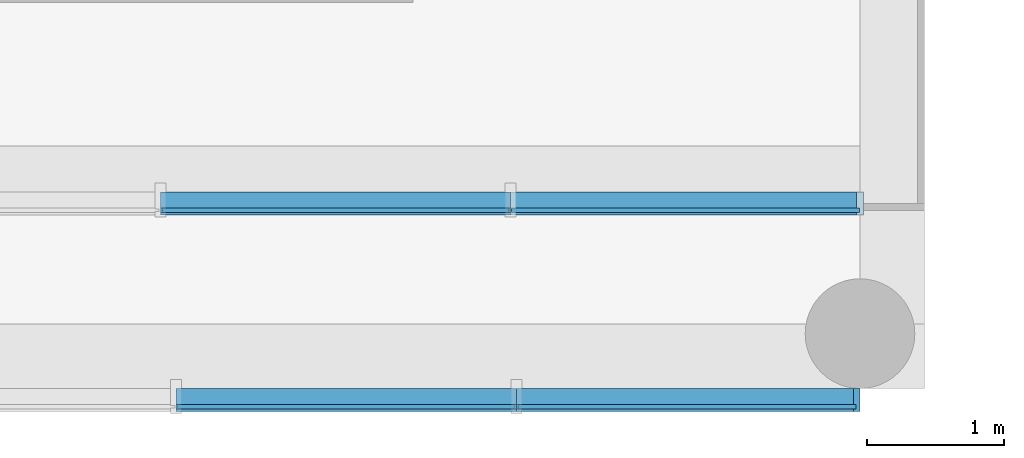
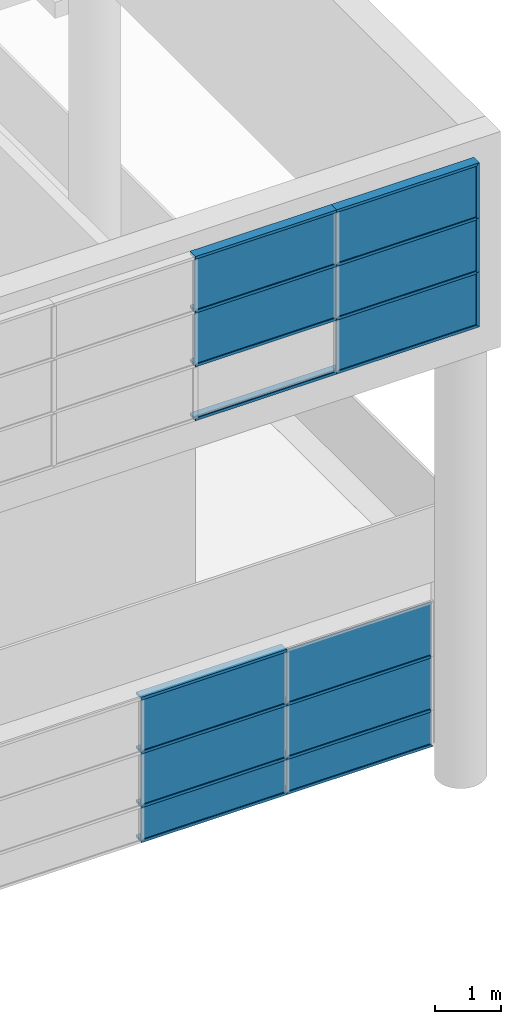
# One storey, part 54 of 105: 29 building element parts, 2 elements without a shape of their own.
"""IFC4 building model written with IfcOpenShell, lengths in millimetres."""

from ifc_helpers import new_model, entity, si_unit, converted_unit, derived_unit, direction, frame, origin_with_axes, place, context, subcontext, project, spatial, triangles, material, element, aggregate, save


model = new_model("IFC4")

# Units and contexts
model_context = context("Model", 3, precision=1e-05, world=origin_with_axes(), true_north=direction((0.0, 1.0)))
body_context = subcontext(model_context, "Body", "Model", "MODEL_VIEW")
ifc_project = project(units=[si_unit("LENGTHUNIT", "METRE", prefix="MILLI"), si_unit("AREAUNIT", "SQUARE_METRE"), si_unit("VOLUMEUNIT", "CUBIC_METRE"), converted_unit("PLANEANGLEUNIT", "DEGREE", entity("IfcLengthMeasure", 0.017453), si_unit("PLANEANGLEUNIT", "RADIAN"), dimensions=[0, 0, 0, 0, 0, 0, 0]), si_unit("SOLIDANGLEUNIT", "STERADIAN"), si_unit("MASSUNIT", "GRAM"), si_unit("TIMEUNIT", "SECOND"), si_unit("THERMODYNAMICTEMPERATUREUNIT", "DEGREE_CELSIUS"), si_unit("LUMINOUSINTENSITYUNIT", "LUMEN"), si_unit("POWERUNIT", "WATT"), derived_unit("THERMALTRANSMITTANCEUNIT", [(si_unit("POWERUNIT", "WATT"), 1), (si_unit("THERMODYNAMICTEMPERATUREUNIT", "KELVIN"), -1), (si_unit("AREAUNIT", "SQUARE_METRE"), -1)])], contexts=[model_context])

# Site, building, storey
site_placement = place(None, origin_with_axes())
site = spatial("IfcSite", under=ifc_project, at=site_placement, Name="Default Site", CompositionType="ELEMENT")
building_placement = place(site_placement, origin_with_axes())
building = spatial("IfcBuilding", under=site, at=building_placement, Name="Default Building", CompositionType="ELEMENT")
storey_placement = place(building_placement, origin_with_axes())
storey = spatial("IfcBuildingStorey", under=building, at=storey_placement, Name="OG - Story", CompositionType="ELEMENT", Elevation=0.0)

# Curtain wall, building element parts
curtain_wall_1_placement = place(storey_placement, origin_with_axes())
curtain_wall_1 = element("IfcCurtainWall", 1, at=curtain_wall_1_placement, inside=storey, Name="Fassade-001", PredefinedType="NOTDEFINED")
ifc_material_1 = material(Name="Normalglas")
building_element_part_1_placement = place(curtain_wall_1_placement, frame((52496.845873, -51289.262838, 0.0), z_axis=(0.0, 0.0, 1.0), x_axis=(1.0, 0.0, 0.0)))
building_element_part_1 = element("IfcBuildingElementPart", 2, at=building_element_part_1_placement, material=ifc_material_1, Name="Normalglas", PredefinedType="NOTDEFINED", context=body_context, shape_type="Tessellation", body=[
    triangles([(24223.636, 15.0, 645.0), (21692.727, 15.0, 645.0), (21692.727, -14.999, 645.0), (24223.636, -14.999, 645.0), (24223.636, 15.0, 5.0), (21692.727, 15.0, 5.0), (21692.727, -14.999, 5.0), (24223.636, -14.999, 5.0)], [[1, 2, 3], [1, 3, 4], [1, 5, 6], [1, 6, 2], [2, 6, 7], [2, 7, 3], [4, 3, 7], [4, 7, 8], [5, 1, 4], [5, 4, 8], [6, 5, 8], [6, 8, 7]], closed=False),
])
building_element_part_2_placement = place(curtain_wall_1_placement, frame((52496.845873, -51289.262838, 0.0), z_axis=(0.0, 0.0, 1.0), x_axis=(1.0, 0.0, 0.0)))
building_element_part_2 = element("IfcBuildingElementPart", 3, at=building_element_part_2_placement, material=ifc_material_1, Name="Normalglas", PredefinedType="NOTDEFINED", context=body_context, shape_type="Tessellation", body=[
    triangles([(26779.545, 15.0, 645.0), (24243.636, 15.0, 645.0), (24243.636, -14.999, 645.0), (26779.545, -14.999, 645.0), (26779.545, 15.0, 5.0), (24243.636, 15.0, 5.0), (24243.636, -14.999, 5.0), (26779.545, -14.999, 5.0)], [[1, 2, 3], [1, 3, 4], [1, 5, 6], [1, 6, 2], [2, 6, 7], [2, 7, 3], [4, 3, 7], [4, 7, 8], [5, 1, 4], [5, 4, 8], [6, 5, 8], [6, 8, 7]], closed=False),
])
building_element_part_3_placement = place(curtain_wall_1_placement, frame((52496.845873, -51289.262838, 0.0), z_axis=(0.0, 0.0, 1.0), x_axis=(1.0, 0.0, 0.0)))
building_element_part_3 = element("IfcBuildingElementPart", 4, at=building_element_part_3_placement, material=ifc_material_1, Name="Normalglas", PredefinedType="NOTDEFINED", context=body_context, shape_type="Tessellation", body=[
    triangles([(24223.636, 15.0, 1645.0), (21692.727, 15.0, 1645.0), (21692.727, -14.999, 1645.0), (24223.636, -14.999, 1645.0), (24223.636, 15.0, 655.0), (21692.727, 15.0, 655.0), (21692.727, -14.999, 655.0), (24223.636, -14.999, 655.0)], [[1, 2, 3], [1, 3, 4], [1, 5, 6], [1, 6, 2], [2, 6, 7], [2, 7, 3], [4, 3, 7], [4, 7, 8], [5, 1, 4], [5, 4, 8], [6, 5, 8], [6, 8, 7]], closed=False),
])
building_element_part_4_placement = place(curtain_wall_1_placement, frame((52496.845873, -51289.262838, 0.0), z_axis=(0.0, 0.0, 1.0), x_axis=(1.0, 0.0, 0.0)))
building_element_part_4 = element("IfcBuildingElementPart", 5, at=building_element_part_4_placement, material=ifc_material_1, Name="Normalglas", PredefinedType="NOTDEFINED", context=body_context, shape_type="Tessellation", body=[
    triangles([(26779.545, 15.0, 1645.0), (24243.636, 15.0, 1645.0), (24243.636, -14.999, 1645.0), (26779.545, -14.999, 1645.0), (26779.545, 15.0, 655.0), (24243.636, 15.0, 655.0), (24243.636, -14.999, 655.0), (26779.545, -14.999, 655.0)], [[1, 2, 3], [1, 3, 4], [1, 5, 6], [1, 6, 2], [2, 6, 7], [2, 7, 3], [4, 3, 7], [4, 7, 8], [5, 1, 4], [5, 4, 8], [6, 5, 8], [6, 8, 7]], closed=False),
])
building_element_part_5_placement = place(curtain_wall_1_placement, frame((52496.845873, -51289.262838, 0.0), z_axis=(0.0, 0.0, 1.0), x_axis=(1.0, 0.0, 0.0)))
building_element_part_5 = element("IfcBuildingElementPart", 6, at=building_element_part_5_placement, material=ifc_material_1, Name="Normalglas", PredefinedType="NOTDEFINED", context=body_context, shape_type="Tessellation", body=[
    triangles([(24223.636, 15.0, 2645.0), (21692.727, 15.0, 2645.0), (21692.727, -14.999, 2645.0), (24223.636, -14.999, 2645.0), (24223.636, 15.0, 1655.0), (21692.727, 15.0, 1655.0), (21692.727, -14.999, 1655.0), (24223.636, -14.999, 1655.0)], [[1, 2, 3], [1, 3, 4], [1, 5, 6], [1, 6, 2], [2, 6, 7], [2, 7, 3], [4, 3, 7], [4, 7, 8], [5, 1, 4], [5, 4, 8], [6, 5, 8], [6, 8, 7]], closed=False),
])
building_element_part_6_placement = place(curtain_wall_1_placement, frame((52496.845873, -51289.262838, 0.0), z_axis=(0.0, 0.0, 1.0), x_axis=(1.0, 0.0, 0.0)))
building_element_part_6 = element("IfcBuildingElementPart", 7, at=building_element_part_6_placement, material=ifc_material_1, Name="Normalglas", PredefinedType="NOTDEFINED", context=body_context, shape_type="Tessellation", body=[
    triangles([(26779.545, 15.0, 2645.0), (24243.636, 15.0, 2645.0), (24243.636, -14.999, 2645.0), (26779.545, -14.999, 2645.0), (26779.545, 15.0, 1655.0), (24243.636, 15.0, 1655.0), (24243.636, -14.999, 1655.0), (26779.545, -14.999, 1655.0)], [[1, 2, 3], [1, 3, 4], [1, 5, 6], [1, 6, 2], [2, 6, 7], [2, 7, 3], [4, 3, 7], [4, 7, 8], [5, 1, 4], [5, 4, 8], [6, 5, 8], [6, 8, 7]], closed=False),
])
ifc_material_2 = material(Name="Blech")
building_element_part_7_placement = place(curtain_wall_1_placement, frame((52496.845873, -51289.262838, 0.0), z_axis=(0.0, 0.0, 1.0), x_axis=(1.0, 0.0, 0.0)))
building_element_part_7 = element("IfcBuildingElementPart", 8, at=building_element_part_7_placement, material=ifc_material_2, Name="Blech", PredefinedType="NOTDEFINED", context=body_context, shape_type="Tessellation", body=[
    triangles([(24233.636, 15.0, 25.0), (24233.636, 133.0, 25.0), (24233.636, 15.0, 5.0), (24233.636, 133.0, -24.999), (24233.636, -14.999, 5.0), (24233.636, -34.999, -24.999), (24233.636, -14.999, 25.0), (24233.636, -34.999, 25.0), (21682.727, 15.0, 5.0), (21682.727, -14.999, 5.0), (21682.727, -14.999, 25.0), (21682.727, -34.999, 25.0), (21682.727, -34.999, -24.999), (21682.727, 133.0, -24.999), (21682.727, 133.0, 25.0), (21682.727, 15.0, 25.0)], [[1, 2, 3], [3, 2, 4], [3, 4, 5], [5, 4, 6], [5, 6, 7], [7, 6, 8], [5, 3, 9], [5, 9, 10], [11, 7, 5], [11, 5, 10], [7, 11, 12], [7, 12, 8], [13, 6, 8], [13, 8, 12], [14, 4, 6], [14, 6, 13], [15, 2, 4], [15, 4, 14], [16, 1, 2], [16, 2, 15], [3, 1, 16], [3, 16, 9], [16, 15, 9], [9, 15, 14], [9, 14, 10], [10, 14, 13], [10, 13, 11], [11, 13, 12]], closed=False),
])
building_element_part_8_placement = place(curtain_wall_1_placement, frame((52496.845873, -51289.262838, 0.0), z_axis=(0.0, 0.0, 1.0), x_axis=(1.0, 0.0, 0.0)))
building_element_part_8 = element("IfcBuildingElementPart", 9, at=building_element_part_8_placement, material=ifc_material_2, Name="Blech", PredefinedType="NOTDEFINED", context=body_context, shape_type="Tessellation", body=[
    triangles([(26759.545, 15.0, 25.0), (26759.545, 133.0, 25.0), (26779.545, 15.0, 5.0), (26809.545, 133.0, -24.999), (26779.545, -14.999, 5.0), (26809.545, -34.999, -24.999), (26759.545, -14.999, 25.0), (26759.545, -34.999, 25.0), (24233.636, 15.0, 5.0), (24233.636, -14.999, 5.0), (24233.636, -14.999, 25.0), (24233.636, -34.999, 25.0), (24233.636, -34.999, -24.999), (24233.636, 133.0, -24.999), (24233.636, 133.0, 25.0), (24233.636, 15.0, 25.0)], [[1, 2, 3], [3, 2, 4], [3, 4, 5], [5, 4, 6], [5, 6, 7], [7, 6, 8], [5, 3, 9], [5, 9, 10], [11, 7, 5], [11, 5, 10], [7, 11, 12], [7, 12, 8], [13, 6, 8], [13, 8, 12], [14, 4, 6], [14, 6, 13], [15, 2, 4], [15, 4, 14], [16, 1, 2], [16, 2, 15], [3, 1, 16], [3, 16, 9], [16, 15, 9], [9, 15, 14], [9, 14, 10], [10, 14, 13], [10, 13, 11], [11, 13, 12]], closed=False),
])
building_element_part_9_placement = place(curtain_wall_1_placement, frame((52496.845873, -51289.262838, 0.0), z_axis=(0.0, 0.0, 1.0), x_axis=(1.0, 0.0, 0.0)))
building_element_part_9 = element("IfcBuildingElementPart", 10, at=building_element_part_9_placement, material=ifc_material_2, Name="Blech", PredefinedType="NOTDEFINED", context=body_context, shape_type="Tessellation", body=[
    triangles([(24233.636, 133.0, 675.0), (24233.636, 15.0, 675.0), (24233.636, 133.0, 625.0), (24233.636, 15.0, 655.0), (24233.636, 15.0, 645.0), (24233.636, -14.999, 655.0), (24233.636, -14.999, 645.0), (24233.636, -14.999, 625.0), (24233.636, -14.999, 675.0), (24233.636, -34.999, 675.0), (24233.636, -34.999, 625.0), (24233.636, 15.0, 625.0), (21682.727, 15.0, 645.0), (21682.727, 15.0, 625.0), (21682.727, 133.0, 625.0), (21682.727, 133.0, 675.0), (21682.727, 15.0, 675.0), (21682.727, 15.0, 655.0), (21682.727, -14.999, 655.0), (21682.727, -14.999, 675.0), (21682.727, -34.999, 675.0), (21682.727, -34.999, 625.0), (21682.727, -14.999, 625.0), (21682.727, -14.999, 645.0)], [[1, 2, 3], [3, 2, 4], [3, 4, 5], [5, 4, 6], [5, 6, 7], [8, 9, 10], [8, 10, 11], [3, 5, 12], [12, 5, 13], [12, 13, 14], [12, 14, 15], [12, 15, 3], [1, 3, 15], [1, 15, 16], [2, 1, 16], [2, 16, 17], [2, 17, 18], [2, 18, 4], [4, 18, 19], [4, 19, 6], [9, 6, 19], [9, 19, 20], [20, 21, 10], [20, 10, 9], [11, 10, 21], [11, 21, 22], [23, 8, 11], [23, 11, 22], [7, 8, 23], [7, 23, 24], [5, 7, 24], [5, 24, 13], [15, 14, 16], [16, 14, 13], [16, 13, 18], [18, 13, 24], [18, 24, 19], [20, 23, 22], [20, 22, 21], [16, 18, 17]], closed=False),
])
building_element_part_10_placement = place(curtain_wall_1_placement, frame((52496.845873, -51289.262838, 0.0), z_axis=(0.0, 0.0, 1.0), x_axis=(1.0, 0.0, 0.0)))
building_element_part_10 = element("IfcBuildingElementPart", 11, at=building_element_part_10_placement, material=ifc_material_2, Name="Blech", PredefinedType="NOTDEFINED", context=body_context, shape_type="Tessellation", body=[
    triangles([(26759.545, 133.0, 675.0), (26759.545, 15.0, 675.0), (26759.545, 133.0, 625.0), (26759.545, 15.0, 655.0), (26759.545, 15.0, 645.0), (26759.545, -14.999, 655.0), (26759.545, -14.999, 645.0), (26759.545, -14.999, 625.0), (26759.545, -14.999, 675.0), (26759.545, -34.999, 675.0), (26759.545, -34.999, 625.0), (26759.545, 15.0, 625.0), (24233.636, 15.0, 645.0), (24233.636, 15.0, 625.0), (24233.636, 133.0, 625.0), (24233.636, 133.0, 675.0), (24233.636, 15.0, 675.0), (24233.636, 15.0, 655.0), (24233.636, -14.999, 655.0), (24233.636, -14.999, 675.0), (24233.636, -34.999, 675.0), (24233.636, -34.999, 625.0), (24233.636, -14.999, 625.0), (24233.636, -14.999, 645.0)], [[1, 2, 3], [3, 2, 4], [3, 4, 5], [5, 4, 6], [5, 6, 7], [8, 9, 10], [8, 10, 11], [3, 5, 12], [12, 5, 13], [12, 13, 14], [12, 14, 15], [12, 15, 3], [1, 3, 15], [1, 15, 16], [2, 1, 16], [2, 16, 17], [2, 17, 18], [2, 18, 4], [4, 18, 19], [4, 19, 6], [9, 6, 19], [9, 19, 20], [20, 21, 10], [20, 10, 9], [11, 10, 21], [11, 21, 22], [23, 8, 11], [23, 11, 22], [7, 8, 23], [7, 23, 24], [5, 7, 24], [5, 24, 13], [15, 14, 16], [16, 14, 13], [16, 13, 18], [18, 13, 24], [18, 24, 19], [20, 23, 22], [20, 22, 21], [16, 18, 17]], closed=False),
])
building_element_part_11_placement = place(curtain_wall_1_placement, frame((52496.845873, -51289.262838, 0.0), z_axis=(0.0, 0.0, 1.0), x_axis=(1.0, 0.0, 0.0)))
building_element_part_11 = element("IfcBuildingElementPart", 12, at=building_element_part_11_placement, material=ifc_material_2, Name="Blech", PredefinedType="NOTDEFINED", context=body_context, shape_type="Tessellation", body=[
    triangles([(24233.636, 133.0, 1675.0), (24233.636, 15.0, 1675.0), (24233.636, 133.0, 1625.0), (24233.636, 15.0, 1655.0), (24233.636, 15.0, 1645.0), (24233.636, -14.999, 1655.0), (24233.636, -14.999, 1645.0), (24233.636, -14.999, 1625.0), (24233.636, -14.999, 1675.0), (24233.636, -34.999, 1675.0), (24233.636, -34.999, 1625.0), (24233.636, 15.0, 1625.0), (21682.727, 15.0, 1645.0), (21682.727, 15.0, 1625.0), (21682.727, 133.0, 1625.0), (21682.727, 133.0, 1675.0), (21682.727, 15.0, 1675.0), (21682.727, 15.0, 1655.0), (21682.727, -14.999, 1655.0), (21682.727, -14.999, 1675.0), (21682.727, -34.999, 1675.0), (21682.727, -34.999, 1625.0), (21682.727, -14.999, 1625.0), (21682.727, -14.999, 1645.0)], [[1, 2, 3], [3, 2, 4], [3, 4, 5], [5, 4, 6], [5, 6, 7], [8, 9, 10], [8, 10, 11], [3, 5, 12], [12, 5, 13], [12, 13, 14], [12, 14, 15], [12, 15, 3], [1, 3, 15], [1, 15, 16], [2, 1, 16], [2, 16, 17], [2, 17, 18], [2, 18, 4], [4, 18, 19], [4, 19, 6], [9, 6, 19], [9, 19, 20], [20, 21, 10], [20, 10, 9], [11, 10, 21], [11, 21, 22], [23, 8, 11], [23, 11, 22], [7, 8, 23], [7, 23, 24], [5, 7, 24], [5, 24, 13], [15, 14, 16], [16, 14, 13], [16, 13, 18], [18, 13, 24], [18, 24, 19], [20, 23, 22], [20, 22, 21], [16, 18, 17]], closed=False),
])
building_element_part_12_placement = place(curtain_wall_1_placement, frame((52496.845873, -51289.262838, 0.0), z_axis=(0.0, 0.0, 1.0), x_axis=(1.0, 0.0, 0.0)))
building_element_part_12 = element("IfcBuildingElementPart", 13, at=building_element_part_12_placement, material=ifc_material_2, Name="Blech", PredefinedType="NOTDEFINED", context=body_context, shape_type="Tessellation", body=[
    triangles([(24233.636, 15.0, 2625.0), (24233.636, 133.0, 2625.0), (24233.636, 15.0, 2645.0), (24233.636, 133.0, 2675.0), (24233.636, -14.999, 2645.0), (24233.636, -34.999, 2675.0), (24233.636, -14.999, 2625.0), (24233.636, -34.999, 2625.0), (21682.727, 15.0, 2645.0), (21682.727, 15.0, 2625.0), (21682.727, 133.0, 2625.0), (21682.727, 133.0, 2675.0), (21682.727, -34.999, 2675.0), (21682.727, -34.999, 2625.0), (21682.727, -14.999, 2625.0), (21682.727, -14.999, 2645.0)], [[1, 2, 3], [3, 2, 4], [3, 4, 5], [5, 4, 6], [5, 6, 7], [7, 6, 8], [3, 9, 10], [3, 10, 1], [10, 11, 2], [10, 2, 1], [11, 12, 4], [11, 4, 2], [12, 13, 6], [12, 6, 4], [13, 14, 8], [13, 8, 6], [7, 8, 14], [7, 14, 15], [15, 16, 5], [15, 5, 7], [5, 16, 9], [5, 9, 3], [10, 11, 9], [9, 11, 12], [9, 12, 16], [16, 12, 13], [16, 13, 15], [15, 13, 14]], closed=False),
])
building_element_part_13_placement = place(curtain_wall_1_placement, frame((52496.845873, -51289.262838, 0.0), z_axis=(0.0, 0.0, 1.0), x_axis=(1.0, 0.0, 0.0)))
building_element_part_13 = element("IfcBuildingElementPart", 14, at=building_element_part_13_placement, material=ifc_material_2, Name="Blech", PredefinedType="NOTDEFINED", context=body_context, shape_type="Tessellation", body=[
    triangles([(26759.545, 133.0, 1675.0), (26759.545, 15.0, 1675.0), (26759.545, 133.0, 1625.0), (26759.545, 15.0, 1655.0), (26759.545, 15.0, 1645.0), (26759.545, -14.999, 1655.0), (26759.545, -14.999, 1645.0), (26759.545, -14.999, 1625.0), (26759.545, -14.999, 1675.0), (26759.545, -34.999, 1675.0), (26759.545, -34.999, 1625.0), (26759.545, 15.0, 1625.0), (24233.636, 15.0, 1645.0), (24233.636, 15.0, 1625.0), (24233.636, 133.0, 1625.0), (24233.636, 133.0, 1675.0), (24233.636, 15.0, 1675.0), (24233.636, 15.0, 1655.0), (24233.636, -14.999, 1655.0), (24233.636, -14.999, 1675.0), (24233.636, -34.999, 1675.0), (24233.636, -34.999, 1625.0), (24233.636, -14.999, 1625.0), (24233.636, -14.999, 1645.0)], [[1, 2, 3], [3, 2, 4], [3, 4, 5], [5, 4, 6], [5, 6, 7], [8, 9, 10], [8, 10, 11], [3, 5, 12], [12, 5, 13], [12, 13, 14], [12, 14, 15], [12, 15, 3], [1, 3, 15], [1, 15, 16], [2, 1, 16], [2, 16, 17], [2, 17, 18], [2, 18, 4], [4, 18, 19], [4, 19, 6], [9, 6, 19], [9, 19, 20], [20, 21, 10], [20, 10, 9], [11, 10, 21], [11, 21, 22], [23, 8, 11], [23, 11, 22], [7, 8, 23], [7, 23, 24], [5, 7, 24], [5, 24, 13], [15, 14, 16], [16, 14, 13], [16, 13, 18], [18, 13, 24], [18, 24, 19], [20, 23, 22], [20, 22, 21], [16, 18, 17]], closed=False),
])
aggregate(curtain_wall_1, [building_element_part_1, building_element_part_2, building_element_part_3, building_element_part_4, building_element_part_5, building_element_part_6, building_element_part_7, building_element_part_8, building_element_part_9, building_element_part_10, building_element_part_11, building_element_part_12, building_element_part_13])

curtain_wall_2_placement = place(storey_placement, origin_with_axes())
curtain_wall_2 = element("IfcCurtainWall", 15, at=curtain_wall_2_placement, inside=storey, Name="Fassade-002", PredefinedType="NOTDEFINED")
building_element_part_14_placement = place(curtain_wall_2_placement, frame((33339.077852, -52722.262838, 8660.317768), z_axis=(0.0, 0.0, 1.0), x_axis=(1.0, 0.0, 0.0)))
building_element_part_14 = element("IfcBuildingElementPart", 16, at=building_element_part_14_placement, material=ifc_material_1, Name="Normalglas", PredefinedType="NOTDEFINED", context=body_context, shape_type="Tessellation", body=[
    triangles([(43426.625, 15.0, 1995.0), (40964.532, 15.0, 1995.0), (40964.532, -14.999, 1995.0), (43426.625, -14.999, 1995.0), (43426.625, 15.0, 1005.0), (40964.532, 15.0, 1005.0), (40964.532, -14.999, 1005.0), (43426.625, -14.999, 1005.0)], [[1, 2, 3], [1, 3, 4], [1, 5, 6], [1, 6, 2], [2, 6, 7], [2, 7, 3], [4, 3, 7], [4, 7, 8], [5, 1, 4], [5, 4, 8], [6, 5, 8], [6, 8, 7]], closed=False),
])
building_element_part_15_placement = place(curtain_wall_2_placement, frame((33339.077852, -52722.262838, 8660.317768), z_axis=(0.0, 0.0, 1.0), x_axis=(1.0, 0.0, 0.0)))
building_element_part_15 = element("IfcBuildingElementPart", 17, at=building_element_part_15_placement, material=ifc_material_1, Name="Normalglas", PredefinedType="NOTDEFINED", context=body_context, shape_type="Tessellation", body=[
    triangles([(43426.625, 15.0, 2995.0), (40964.532, 15.0, 2995.0), (40964.532, -14.999, 2995.0), (43426.625, -14.999, 2995.0), (43426.625, 15.0, 2005.0), (40964.532, 15.0, 2005.0), (40964.532, -14.999, 2005.0), (43426.625, -14.999, 2005.0)], [[1, 2, 3], [1, 3, 4], [1, 5, 6], [1, 6, 2], [2, 6, 7], [2, 7, 3], [4, 3, 7], [4, 7, 8], [5, 1, 4], [5, 4, 8], [6, 5, 8], [6, 8, 7]], closed=False),
])
building_element_part_16_placement = place(curtain_wall_2_placement, frame((33339.077852, -52722.262838, 8660.317768), z_axis=(0.0, 0.0, 1.0), x_axis=(1.0, 0.0, 0.0)))
building_element_part_16 = element("IfcBuildingElementPart", 18, at=building_element_part_16_placement, material=ifc_material_1, Name="Normalglas", PredefinedType="NOTDEFINED", context=body_context, shape_type="Tessellation", body=[
    triangles([(45913.718, 15.0, 995.0), (43446.625, 15.0, 995.0), (43446.625, -14.999, 995.0), (45913.718, -14.999, 995.0), (45913.718, 15.0, 5.0), (43446.625, 15.0, 5.0), (43446.625, -14.999, 5.0), (45913.718, -14.999, 5.0)], [[1, 2, 3], [1, 3, 4], [1, 5, 6], [1, 6, 2], [2, 6, 7], [2, 7, 3], [4, 3, 7], [4, 7, 8], [5, 1, 4], [5, 4, 8], [6, 5, 8], [6, 8, 7]], closed=False),
])
building_element_part_17_placement = place(curtain_wall_2_placement, frame((33339.077852, -52722.262838, 8660.317768), z_axis=(0.0, 0.0, 1.0), x_axis=(1.0, 0.0, 0.0)))
building_element_part_17 = element("IfcBuildingElementPart", 19, at=building_element_part_17_placement, material=ifc_material_1, Name="Normalglas", PredefinedType="NOTDEFINED", context=body_context, shape_type="Tessellation", body=[
    triangles([(45913.718, 15.0, 1995.0), (43446.625, 15.0, 1995.0), (43446.625, -14.999, 1995.0), (45913.718, -14.999, 1995.0), (45913.718, 15.0, 1005.0), (43446.625, 15.0, 1005.0), (43446.625, -14.999, 1005.0), (45913.718, -14.999, 1005.0)], [[1, 2, 3], [1, 3, 4], [1, 5, 6], [1, 6, 2], [2, 6, 7], [2, 7, 3], [4, 3, 7], [4, 7, 8], [5, 1, 4], [5, 4, 8], [6, 5, 8], [6, 8, 7]], closed=False),
])
building_element_part_18_placement = place(curtain_wall_2_placement, frame((33339.077852, -52722.262838, 8660.317768), z_axis=(0.0, 0.0, 1.0), x_axis=(1.0, 0.0, 0.0)))
building_element_part_18 = element("IfcBuildingElementPart", 20, at=building_element_part_18_placement, material=ifc_material_1, Name="Normalglas", PredefinedType="NOTDEFINED", context=body_context, shape_type="Tessellation", body=[
    triangles([(45913.718, 15.0, 2995.0), (43446.625, 15.0, 2995.0), (43446.625, -14.999, 2995.0), (45913.718, -14.999, 2995.0), (45913.718, 15.0, 2005.0), (43446.625, 15.0, 2005.0), (43446.625, -14.999, 2005.0), (45913.718, -14.999, 2005.0)], [[1, 2, 3], [1, 3, 4], [1, 5, 6], [1, 6, 2], [2, 6, 7], [2, 7, 3], [4, 3, 7], [4, 7, 8], [5, 1, 4], [5, 4, 8], [6, 5, 8], [6, 8, 7]], closed=False),
])
building_element_part_19_placement = place(curtain_wall_2_placement, frame((33339.077852, -52722.262838, 8660.317768), z_axis=(0.0, 0.0, 1.0), x_axis=(1.0, 0.0, 0.0)))
building_element_part_19 = element("IfcBuildingElementPart", 21, at=building_element_part_19_placement, material=ifc_material_2, Name="Blech", PredefinedType="NOTDEFINED", context=body_context, shape_type="Tessellation", body=[
    triangles([(45913.718, -14.999, 1000.0), (45913.718, 15.0, 1000.0), (45943.718, 133.0, 1000.0), (45943.718, -34.999, 1000.0), (45893.718, -34.999, 1000.0), (45893.718, -14.999, 1000.0), (45893.718, 15.0, 1000.0), (45893.718, 133.0, 1000.0), (45913.718, 15.0, 5.0), (45913.718, -14.999, 5.0), (45893.718, -14.999, 25.0), (45893.718, -34.999, 25.0), (45943.718, -34.999, -24.999), (45943.718, 133.0, -24.999), (45893.718, 133.0, 25.0), (45893.718, 15.0, 25.0)], [[1, 2, 3], [1, 3, 4], [1, 4, 5], [1, 5, 6], [7, 8, 3], [7, 3, 2], [1, 2, 9], [1, 9, 10], [11, 6, 1], [11, 1, 10], [6, 11, 12], [6, 12, 5], [4, 5, 12], [4, 12, 13], [3, 4, 13], [3, 13, 14], [8, 3, 14], [8, 14, 15], [16, 7, 8], [16, 8, 15], [2, 7, 16], [2, 16, 9], [16, 15, 9], [9, 15, 14], [9, 14, 10], [10, 14, 13], [10, 13, 11], [11, 13, 12]], closed=False),
])
building_element_part_20_placement = place(curtain_wall_2_placement, frame((33339.077852, -52722.262838, 8660.317768), z_axis=(0.0, 0.0, 1.0), x_axis=(1.0, 0.0, 0.0)))
building_element_part_20 = element("IfcBuildingElementPart", 22, at=building_element_part_20_placement, material=ifc_material_2, Name="Blech", PredefinedType="NOTDEFINED", context=body_context, shape_type="Tessellation", body=[
    triangles([(45913.718, -14.999, 2000.0), (45913.718, 15.0, 2000.0), (45943.718, 133.0, 2000.0), (45943.718, -34.999, 2000.0), (45893.718, -34.999, 2000.0), (45893.718, -14.999, 2000.0), (45893.718, 15.0, 2000.0), (45893.718, 133.0, 2000.0), (45913.718, 15.0, 1000.0), (45913.718, -14.999, 1000.0), (45893.718, -14.999, 1000.0), (45893.718, -34.999, 1000.0), (45943.718, -34.999, 1000.0), (45943.718, 133.0, 1000.0), (45893.718, 133.0, 1000.0), (45893.718, 15.0, 1000.0)], [[1, 2, 3], [1, 3, 4], [1, 4, 5], [1, 5, 6], [7, 8, 3], [7, 3, 2], [1, 2, 9], [1, 9, 10], [11, 6, 1], [11, 1, 10], [6, 11, 12], [6, 12, 5], [13, 4, 5], [13, 5, 12], [14, 3, 4], [14, 4, 13], [15, 8, 3], [15, 3, 14], [16, 7, 8], [16, 8, 15], [2, 7, 16], [2, 16, 9], [10, 9, 14], [10, 14, 13], [10, 13, 12], [10, 12, 11], [16, 15, 14], [16, 14, 9]], closed=False),
])
building_element_part_21_placement = place(curtain_wall_2_placement, frame((33339.077852, -52722.262838, 8660.317768), z_axis=(0.0, 0.0, 1.0), x_axis=(1.0, 0.0, 0.0)))
building_element_part_21 = element("IfcBuildingElementPart", 23, at=building_element_part_21_placement, material=ifc_material_2, Name="Blech", PredefinedType="NOTDEFINED", context=body_context, shape_type="Tessellation", body=[
    triangles([(45893.718, 15.0, 2975.0), (45893.718, 133.0, 2975.0), (45913.718, 15.0, 2995.0), (45943.718, 133.0, 3025.0), (45913.718, -14.999, 2995.0), (45943.718, -34.999, 3025.0), (45893.718, -14.999, 2975.0), (45893.718, -34.999, 2975.0), (45913.718, 15.0, 2000.0), (45913.718, -14.999, 2000.0), (45893.718, -14.999, 2000.0), (45893.718, -34.999, 2000.0), (45943.718, -34.999, 2000.0), (45943.718, 133.0, 2000.0), (45893.718, 133.0, 2000.0), (45893.718, 15.0, 2000.0)], [[1, 2, 3], [3, 2, 4], [3, 4, 5], [5, 4, 6], [5, 6, 7], [7, 6, 8], [5, 3, 9], [5, 9, 10], [11, 7, 5], [11, 5, 10], [7, 11, 12], [7, 12, 8], [13, 6, 8], [13, 8, 12], [14, 4, 6], [14, 6, 13], [15, 2, 4], [15, 4, 14], [16, 1, 2], [16, 2, 15], [3, 1, 16], [3, 16, 9], [10, 9, 14], [10, 14, 13], [10, 13, 12], [10, 12, 11], [16, 15, 14], [16, 14, 9]], closed=False),
])
building_element_part_22_placement = place(curtain_wall_2_placement, frame((33339.077852, -52722.262838, 8660.317768), z_axis=(0.0, 0.0, 1.0), x_axis=(1.0, 0.0, 0.0)))
building_element_part_22 = element("IfcBuildingElementPart", 24, at=building_element_part_22_placement, material=ifc_material_2, Name="Blech", PredefinedType="NOTDEFINED", context=body_context, shape_type="Tessellation", body=[
    triangles([(43436.625, 15.0, 25.0), (43436.625, 133.0, 25.0), (43436.625, 15.0, 5.0), (43436.625, 133.0, -24.999), (43436.625, -14.999, 5.0), (43436.625, -34.999, -24.999), (43436.625, -14.999, 25.0), (43436.625, -34.999, 25.0), (40954.532, 15.0, 5.0), (40954.532, -14.999, 5.0), (40954.532, -14.999, 25.0), (40954.532, -34.999, 25.0), (40954.532, -34.999, -24.999), (40954.532, 133.0, -24.999), (40954.532, 133.0, 25.0), (40954.532, 15.0, 25.0)], [[1, 2, 3], [3, 2, 4], [3, 4, 5], [5, 4, 6], [5, 6, 7], [7, 6, 8], [5, 3, 9], [5, 9, 10], [11, 7, 5], [11, 5, 10], [7, 11, 12], [7, 12, 8], [13, 6, 8], [13, 8, 12], [14, 4, 6], [14, 6, 13], [15, 2, 4], [15, 4, 14], [16, 1, 2], [16, 2, 15], [3, 1, 16], [3, 16, 9], [16, 15, 9], [9, 15, 14], [9, 14, 10], [10, 14, 13], [10, 13, 11], [11, 13, 12]], closed=False),
])
building_element_part_23_placement = place(curtain_wall_2_placement, frame((33339.077852, -52722.262838, 8660.317768), z_axis=(0.0, 0.0, 1.0), x_axis=(1.0, 0.0, 0.0)))
building_element_part_23 = element("IfcBuildingElementPart", 25, at=building_element_part_23_placement, material=ifc_material_2, Name="Blech", PredefinedType="NOTDEFINED", context=body_context, shape_type="Tessellation", body=[
    triangles([(45893.718, 15.0, 25.0), (45893.718, 133.0, 25.0), (45913.718, 15.0, 5.0), (45943.718, 133.0, -24.999), (45913.718, -14.999, 5.0), (45943.718, -34.999, -24.999), (45893.718, -14.999, 25.0), (45893.718, -34.999, 25.0), (43436.625, 15.0, 5.0), (43436.625, -14.999, 5.0), (43436.625, -14.999, 25.0), (43436.625, -34.999, 25.0), (43436.625, -34.999, -24.999), (43436.625, 133.0, -24.999), (43436.625, 133.0, 25.0), (43436.625, 15.0, 25.0)], [[1, 2, 3], [3, 2, 4], [3, 4, 5], [5, 4, 6], [5, 6, 7], [7, 6, 8], [5, 3, 9], [5, 9, 10], [11, 7, 5], [11, 5, 10], [7, 11, 12], [7, 12, 8], [13, 6, 8], [13, 8, 12], [14, 4, 6], [14, 6, 13], [15, 2, 4], [15, 4, 14], [16, 1, 2], [16, 2, 15], [3, 1, 16], [3, 16, 9], [16, 15, 9], [9, 15, 14], [9, 14, 10], [10, 14, 13], [10, 13, 11], [11, 13, 12]], closed=False),
])
building_element_part_24_placement = place(curtain_wall_2_placement, frame((33339.077852, -52722.262838, 8660.317768), z_axis=(0.0, 0.0, 1.0), x_axis=(1.0, 0.0, 0.0)))
building_element_part_24 = element("IfcBuildingElementPart", 26, at=building_element_part_24_placement, material=ifc_material_2, Name="Blech", PredefinedType="NOTDEFINED", context=body_context, shape_type="Tessellation", body=[
    triangles([(43436.625, 133.0, 1025.0), (43436.625, 15.0, 1025.0), (43436.625, 133.0, 975.0), (43436.625, 15.0, 1005.0), (43436.625, 15.0, 995.0), (43436.625, -14.999, 1005.0), (43436.625, -14.999, 995.0), (43436.625, -14.999, 975.0), (43436.625, -14.999, 1025.0), (43436.625, -34.999, 1025.0), (43436.625, -34.999, 975.0), (43436.625, 15.0, 975.0), (40954.532, 15.0, 995.0), (40954.532, 15.0, 975.0), (40954.532, 133.0, 975.0), (40954.532, 133.0, 1025.0), (40954.532, 15.0, 1025.0), (40954.532, 15.0, 1005.0), (40954.532, -14.999, 1005.0), (40954.532, -14.999, 1025.0), (40954.532, -34.999, 1025.0), (40954.532, -34.999, 975.0), (40954.532, -14.999, 975.0), (40954.532, -14.999, 995.0)], [[1, 2, 3], [3, 2, 4], [3, 4, 5], [5, 4, 6], [5, 6, 7], [8, 9, 10], [8, 10, 11], [3, 5, 12], [12, 5, 13], [12, 13, 14], [12, 14, 15], [12, 15, 3], [1, 3, 15], [1, 15, 16], [2, 1, 16], [2, 16, 17], [2, 17, 18], [2, 18, 4], [4, 18, 19], [4, 19, 6], [9, 6, 19], [9, 19, 20], [20, 21, 10], [20, 10, 9], [11, 10, 21], [11, 21, 22], [23, 8, 11], [23, 11, 22], [7, 8, 23], [7, 23, 24], [5, 7, 24], [5, 24, 13], [15, 14, 16], [16, 14, 13], [16, 13, 18], [18, 13, 24], [18, 24, 19], [20, 23, 22], [20, 22, 21], [16, 18, 17]], closed=False),
])
building_element_part_25_placement = place(curtain_wall_2_placement, frame((33339.077852, -52722.262838, 8660.317768), z_axis=(0.0, 0.0, 1.0), x_axis=(1.0, 0.0, 0.0)))
building_element_part_25 = element("IfcBuildingElementPart", 27, at=building_element_part_25_placement, material=ifc_material_2, Name="Blech", PredefinedType="NOTDEFINED", context=body_context, shape_type="Tessellation", body=[
    triangles([(45893.718, 133.0, 1025.0), (45893.718, 15.0, 1025.0), (45893.718, 133.0, 975.0), (45893.718, 15.0, 1005.0), (45893.718, 15.0, 995.0), (45893.718, -14.999, 1005.0), (45893.718, -14.999, 995.0), (45893.718, -14.999, 975.0), (45893.718, -14.999, 1025.0), (45893.718, -34.999, 1025.0), (45893.718, -34.999, 975.0), (45893.718, 15.0, 975.0), (43436.625, 15.0, 995.0), (43436.625, 15.0, 975.0), (43436.625, 133.0, 975.0), (43436.625, 133.0, 1025.0), (43436.625, 15.0, 1025.0), (43436.625, 15.0, 1005.0), (43436.625, -14.999, 1005.0), (43436.625, -14.999, 1025.0), (43436.625, -34.999, 1025.0), (43436.625, -34.999, 975.0), (43436.625, -14.999, 975.0), (43436.625, -14.999, 995.0)], [[1, 2, 3], [3, 2, 4], [3, 4, 5], [5, 4, 6], [5, 6, 7], [8, 9, 10], [8, 10, 11], [3, 5, 12], [12, 5, 13], [12, 13, 14], [12, 14, 15], [12, 15, 3], [1, 3, 15], [1, 15, 16], [2, 1, 16], [2, 16, 17], [2, 17, 18], [2, 18, 4], [4, 18, 19], [4, 19, 6], [9, 6, 19], [9, 19, 20], [20, 21, 10], [20, 10, 9], [11, 10, 21], [11, 21, 22], [23, 8, 11], [23, 11, 22], [7, 8, 23], [7, 23, 24], [5, 7, 24], [5, 24, 13], [15, 14, 16], [16, 14, 13], [16, 13, 18], [18, 13, 24], [18, 24, 19], [20, 23, 22], [20, 22, 21], [16, 18, 17]], closed=False),
])
building_element_part_26_placement = place(curtain_wall_2_placement, frame((33339.077852, -52722.262838, 8660.317768), z_axis=(0.0, 0.0, 1.0), x_axis=(1.0, 0.0, 0.0)))
building_element_part_26 = element("IfcBuildingElementPart", 28, at=building_element_part_26_placement, material=ifc_material_2, Name="Blech", PredefinedType="NOTDEFINED", context=body_context, shape_type="Tessellation", body=[
    triangles([(43436.625, 133.0, 2025.0), (43436.625, 15.0, 2025.0), (43436.625, 133.0, 1975.0), (43436.625, 15.0, 2005.0), (43436.625, 15.0, 1995.0), (43436.625, -14.999, 2005.0), (43436.625, -14.999, 1995.0), (43436.625, -14.999, 1975.0), (43436.625, -14.999, 2025.0), (43436.625, -34.999, 2025.0), (43436.625, -34.999, 1975.0), (43436.625, 15.0, 1975.0), (40954.532, 15.0, 1995.0), (40954.532, 15.0, 1975.0), (40954.532, 133.0, 1975.0), (40954.532, 133.0, 2025.0), (40954.532, 15.0, 2025.0), (40954.532, 15.0, 2005.0), (40954.532, -14.999, 2005.0), (40954.532, -14.999, 2025.0), (40954.532, -34.999, 2025.0), (40954.532, -34.999, 1975.0), (40954.532, -14.999, 1975.0), (40954.532, -14.999, 1995.0)], [[1, 2, 3], [3, 2, 4], [3, 4, 5], [5, 4, 6], [5, 6, 7], [8, 9, 10], [8, 10, 11], [3, 5, 12], [12, 5, 13], [12, 13, 14], [12, 14, 15], [12, 15, 3], [1, 3, 15], [1, 15, 16], [2, 1, 16], [2, 16, 17], [2, 17, 18], [2, 18, 4], [4, 18, 19], [4, 19, 6], [9, 6, 19], [9, 19, 20], [20, 21, 10], [20, 10, 9], [11, 10, 21], [11, 21, 22], [23, 8, 11], [23, 11, 22], [7, 8, 23], [7, 23, 24], [5, 7, 24], [5, 24, 13], [15, 14, 16], [16, 14, 13], [16, 13, 18], [18, 13, 24], [18, 24, 19], [20, 23, 22], [20, 22, 21], [16, 18, 17]], closed=False),
])
building_element_part_27_placement = place(curtain_wall_2_placement, frame((33339.077852, -52722.262838, 8660.317768), z_axis=(0.0, 0.0, 1.0), x_axis=(1.0, 0.0, 0.0)))
building_element_part_27 = element("IfcBuildingElementPart", 29, at=building_element_part_27_placement, material=ifc_material_2, Name="Blech", PredefinedType="NOTDEFINED", context=body_context, shape_type="Tessellation", body=[
    triangles([(45893.718, 133.0, 2025.0), (45893.718, 15.0, 2025.0), (45893.718, 133.0, 1975.0), (45893.718, 15.0, 2005.0), (45893.718, 15.0, 1995.0), (45893.718, -14.999, 2005.0), (45893.718, -14.999, 1995.0), (45893.718, -14.999, 1975.0), (45893.718, -14.999, 2025.0), (45893.718, -34.999, 2025.0), (45893.718, -34.999, 1975.0), (45893.718, 15.0, 1975.0), (43436.625, 15.0, 1995.0), (43436.625, 15.0, 1975.0), (43436.625, 133.0, 1975.0), (43436.625, 133.0, 2025.0), (43436.625, 15.0, 2025.0), (43436.625, 15.0, 2005.0), (43436.625, -14.999, 2005.0), (43436.625, -14.999, 2025.0), (43436.625, -34.999, 2025.0), (43436.625, -34.999, 1975.0), (43436.625, -14.999, 1975.0), (43436.625, -14.999, 1995.0)], [[1, 2, 3], [3, 2, 4], [3, 4, 5], [5, 4, 6], [5, 6, 7], [8, 9, 10], [8, 10, 11], [3, 5, 12], [12, 5, 13], [12, 13, 14], [12, 14, 15], [12, 15, 3], [1, 3, 15], [1, 15, 16], [2, 1, 16], [2, 16, 17], [2, 17, 18], [2, 18, 4], [4, 18, 19], [4, 19, 6], [9, 6, 19], [9, 19, 20], [20, 21, 10], [20, 10, 9], [11, 10, 21], [11, 21, 22], [23, 8, 11], [23, 11, 22], [7, 8, 23], [7, 23, 24], [5, 7, 24], [5, 24, 13], [15, 14, 16], [16, 14, 13], [16, 13, 18], [18, 13, 24], [18, 24, 19], [20, 23, 22], [20, 22, 21], [16, 18, 17]], closed=False),
])
building_element_part_28_placement = place(curtain_wall_2_placement, frame((33339.077852, -52722.262838, 8660.317768), z_axis=(0.0, 0.0, 1.0), x_axis=(1.0, 0.0, 0.0)))
building_element_part_28 = element("IfcBuildingElementPart", 30, at=building_element_part_28_placement, material=ifc_material_2, Name="Blech", PredefinedType="NOTDEFINED", context=body_context, shape_type="Tessellation", body=[
    triangles([(43436.625, 15.0, 2975.0), (43436.625, 133.0, 2975.0), (43436.625, 15.0, 2995.0), (43436.625, 133.0, 3025.0), (43436.625, -14.999, 2995.0), (43436.625, -34.999, 3025.0), (43436.625, -14.999, 2975.0), (43436.625, -34.999, 2975.0), (40954.532, 15.0, 2995.0), (40954.532, 15.0, 2975.0), (40954.532, 133.0, 2975.0), (40954.532, 133.0, 3025.0), (40954.532, -34.999, 3025.0), (40954.532, -34.999, 2975.0), (40954.532, -14.999, 2975.0), (40954.532, -14.999, 2995.0)], [[1, 2, 3], [3, 2, 4], [3, 4, 5], [5, 4, 6], [5, 6, 7], [7, 6, 8], [3, 9, 10], [3, 10, 1], [10, 11, 2], [10, 2, 1], [11, 12, 4], [11, 4, 2], [12, 13, 6], [12, 6, 4], [13, 14, 8], [13, 8, 6], [7, 8, 14], [7, 14, 15], [15, 16, 5], [15, 5, 7], [5, 16, 9], [5, 9, 3], [10, 11, 9], [9, 11, 12], [9, 12, 16], [16, 12, 13], [16, 13, 15], [15, 13, 14]], closed=False),
])
building_element_part_29_placement = place(curtain_wall_2_placement, frame((33339.077852, -52722.262838, 8660.317768), z_axis=(0.0, 0.0, 1.0), x_axis=(1.0, 0.0, 0.0)))
building_element_part_29 = element("IfcBuildingElementPart", 31, at=building_element_part_29_placement, material=ifc_material_2, Name="Blech", PredefinedType="NOTDEFINED", context=body_context, shape_type="Tessellation", body=[
    triangles([(45893.718, 15.0, 2975.0), (45893.718, 133.0, 2975.0), (45913.718, 15.0, 2995.0), (45943.718, 133.0, 3025.0), (45913.718, -14.999, 2995.0), (45943.718, -34.999, 3025.0), (45893.718, -14.999, 2975.0), (45893.718, -34.999, 2975.0), (43436.625, 15.0, 2995.0), (43436.625, 15.0, 2975.0), (43436.625, 133.0, 2975.0), (43436.625, 133.0, 3025.0), (43436.625, -34.999, 3025.0), (43436.625, -34.999, 2975.0), (43436.625, -14.999, 2975.0), (43436.625, -14.999, 2995.0)], [[1, 2, 3], [3, 2, 4], [3, 4, 5], [5, 4, 6], [5, 6, 7], [7, 6, 8], [3, 9, 10], [3, 10, 1], [10, 11, 2], [10, 2, 1], [11, 12, 4], [11, 4, 2], [12, 13, 6], [12, 6, 4], [13, 14, 8], [13, 8, 6], [7, 8, 14], [7, 14, 15], [15, 16, 5], [15, 5, 7], [5, 16, 9], [5, 9, 3], [10, 11, 9], [9, 11, 12], [9, 12, 16], [16, 12, 13], [16, 13, 15], [15, 13, 14]], closed=False),
])
aggregate(curtain_wall_2, [building_element_part_14, building_element_part_15, building_element_part_16, building_element_part_17, building_element_part_18, building_element_part_19, building_element_part_20, building_element_part_21, building_element_part_22, building_element_part_23, building_element_part_24, building_element_part_25, building_element_part_26, building_element_part_27, building_element_part_28, building_element_part_29])

save(model, "model.ifc")
